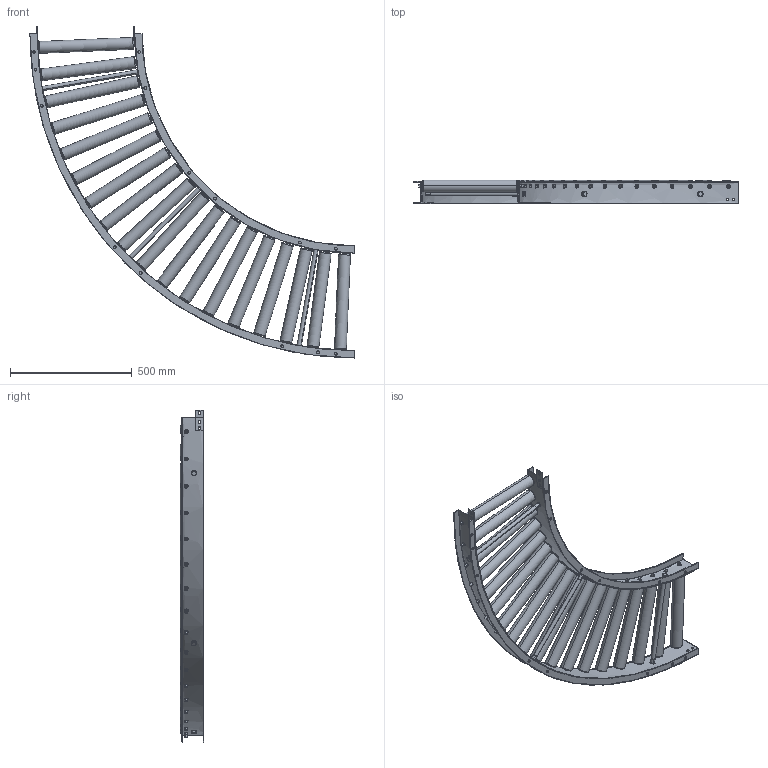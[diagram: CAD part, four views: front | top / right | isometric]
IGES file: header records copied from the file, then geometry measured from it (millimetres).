
Start section: SolidWorks IGES file using analytic representation for surfaces
Global section: file name: C:\Users\0656\Desktop\変換ツール\iges変換\S-4814P_C.igs; native system: SolidWorks 2023; preprocessor: SolidWorks 2023; author: 0656; date: 240302.141241; units: millimetre
Bounding box: 1330 x 95.8 x 1361.57 mm (x, y, z)
Surface area: 3073604.5 mm2 (no closed solid volume)
Topology: 0 solids, 0 shells, 1102 faces, 18996 edges, 18996 vertices
Faces by surface type: bspline 660, revolution 442
